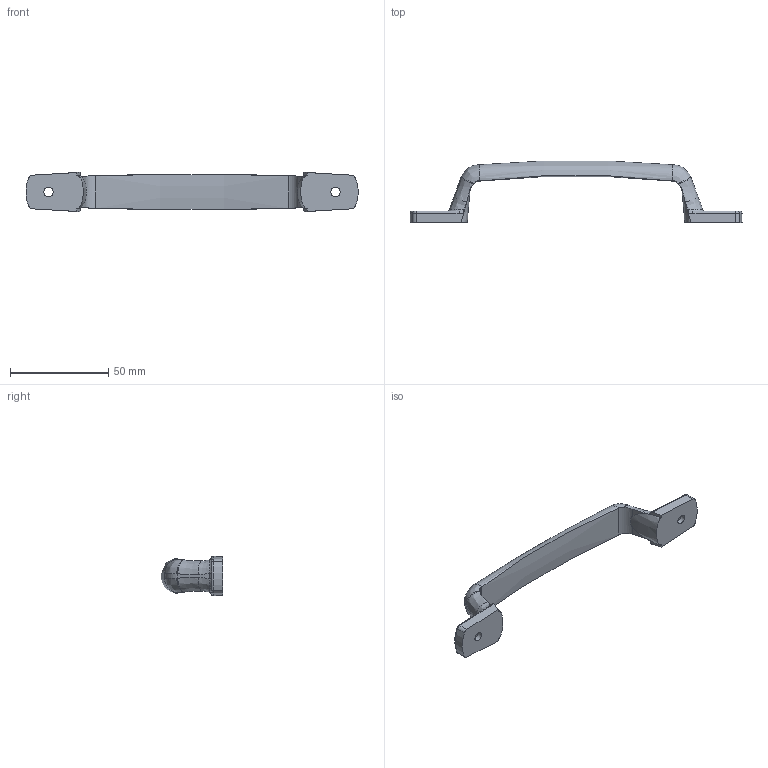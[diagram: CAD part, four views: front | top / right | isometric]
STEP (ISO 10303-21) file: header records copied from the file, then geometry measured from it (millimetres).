
FILE_DESCRIPTION(/* description */ (''),/* implementation_level */ '2;1');
FILE_NAME(/* name */ '\\NAS\db20\A-CC146\DR_A-CC146.stp',/* time_stamp */ '2017-07-08T08:17:34+09:00',/* author */ ('user'),/* organization */ (''),/* preprocessor_version */ 'ST-DEVELOPER v15.6',/* originating_system */ 'Autodesk Inventor 2015',/* authorisation */ '');
FILE_SCHEMA (('AUTOMOTIVE_DESIGN { 1 0 10303 214 3 1 1 }'));
Length unit declared in the file: millimetre
Products named in the file (1): DR_A-CC146
Bounding box: 168.88 x 31.48 x 19.97 mm (x, y, z)
Volume: 21369 mm3; surface area: 9014.9 mm2
Topology: 1 solids, 1 shells, 90 faces, 220 edges, 132 vertices
Faces by surface type: bspline 36, cylinder 34, plane 16, torus 2, cone 2
Full cylindrical faces by diameter (mm): 4.8 x2
Entity records: 3626 total; most frequent: CARTESIAN_POINT 1681, ORIENTED_EDGE 428, DIRECTION 354, EDGE_CURVE 214, AXIS2_PLACEMENT_3D 149, VERTEX_POINT 130, EDGE_LOOP 98, FACE_OUTER_BOUND 90
